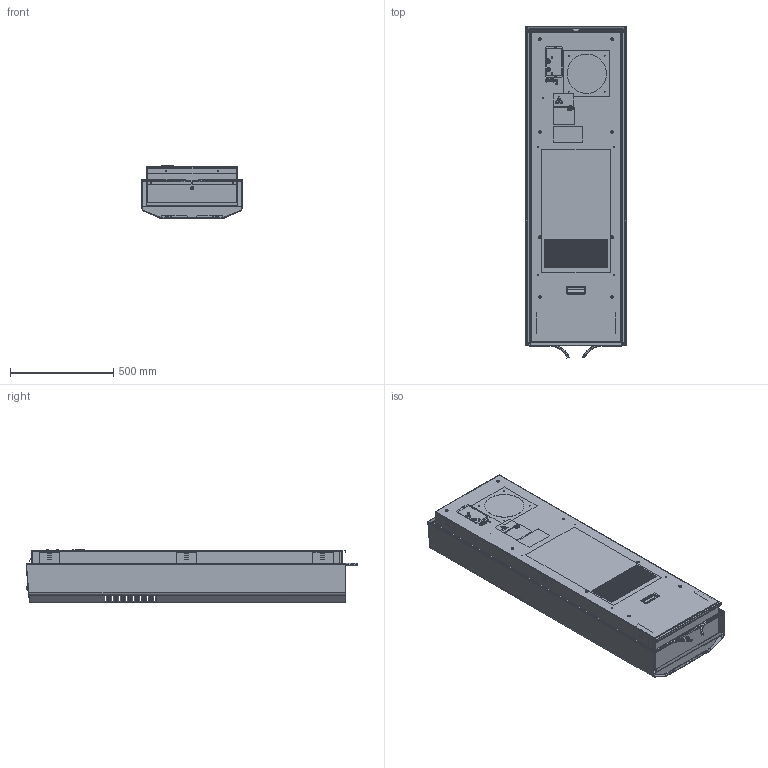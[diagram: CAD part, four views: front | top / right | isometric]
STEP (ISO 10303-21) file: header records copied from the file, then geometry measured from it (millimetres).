
FILE_DESCRIPTION (( 'STEP AP203' ), '1' );
FILE_NAME ('30298-101_PAI.STEP', '2012-11-23T03:47:49', ( 'pfannenberg' ), ( 'Microsoft' ), 'SwSTEP 2.0', 'SolidWorks 2011', '' );
FILE_SCHEMA (( 'CONFIG_CONTROL_DESIGN' ));
Length unit declared in the file: millimetre
Products named in the file (1): 30298-101_PAI
Bounding box: 485 x 1608.87 x 257 mm (x, y, z)
Surface area: 14176677.8 mm2 (no closed solid volume)
Topology: 0 solids, 112 shells, 1177 faces, 8505 edges, 7020 vertices
Faces by surface type: plane 727, cylinder 345, torus 46, cone 21, sphere 20, bspline 18
Entity records: 89670 total; most frequent: CARTESIAN_POINT 27216, DIRECTION 12065, ORIENTED_EDGE 10887, EDGE_CURVE 8505, VERTEX_POINT 7020, LINE 5715, VECTOR 5715, AXIS2_PLACEMENT_3D 3175
